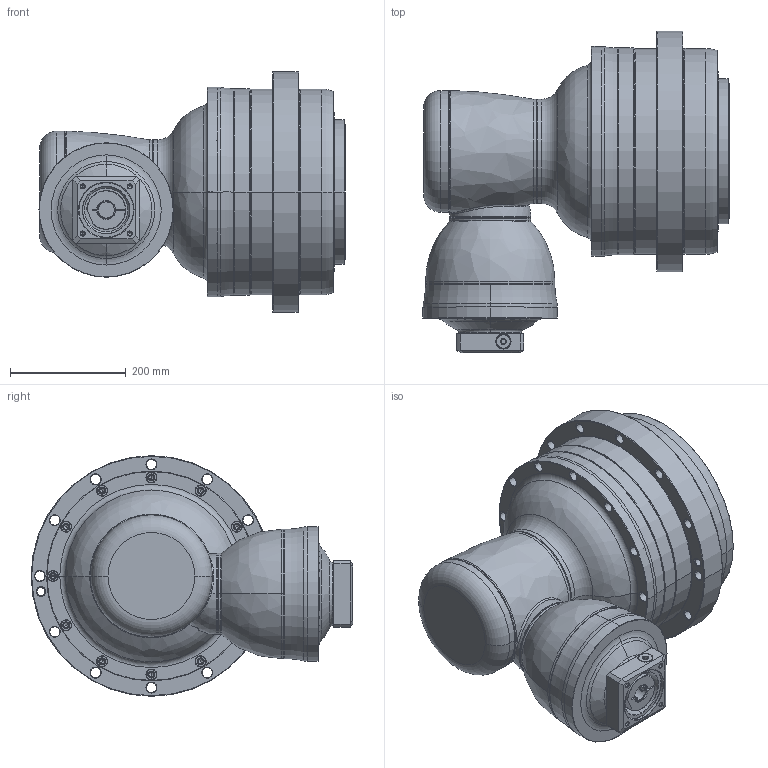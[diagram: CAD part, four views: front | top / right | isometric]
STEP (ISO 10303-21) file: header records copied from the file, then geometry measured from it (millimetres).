
FILE_DESCRIPTION((''),'2;1');
FILE_NAME('AHK355_4ST_28-P0409600101_ASM','2016-12-08T',('d01943'),(''),'PRO/ENGINEER BY PARAMETRIC TECHNOLOGY CORPORATION, 2008410','PRO/ENGINEER BY PARAMETRIC TECHNOLOGY CORPORATION, 2008410','');
FILE_SCHEMA(('CONFIG_CONTROL_DESIGN'));
Length unit declared in the file: millimetre
Products named in the file (12): P1008600002; P1821100001; P0276100003; P0357100003; P1315600001; P1007600001; P1317600101; P0409600101; P0503600010; P0912501201; 21711418017; AHK355_4ST_28-P0409600101_ASM
Assembly tree (11 placements, depth 2):
  AHK355_4ST_28-P0409600101_ASM
    P1008600002
    P1821100001
    P0276100003
    P0357100003
    P1315600001
    P1007600001
    P1317600101
    P0409600101
    P0503600010
    P0912501201
    21711418017
Bounding box: 528 x 555 x 415 mm (x, y, z)
Volume: 36527629.5 mm3; surface area: 1753103.2 mm2
Topology: 12 solids, 12 shells, 1028 faces, 2299 edges, 1317 vertices
Faces by surface type: cone 368, cylinder 368, torus 128, plane 125, bspline 37, sphere 2
Entity records: 34674 total; most frequent: CARTESIAN_POINT 11285, DIRECTION 5392, ORIENTED_EDGE 4422, AXIS2_PLACEMENT_3D 2295, EDGE_CURVE 2211, VERTEX_POINT 1317, CIRCLE 1281, EDGE_LOOP 1238
